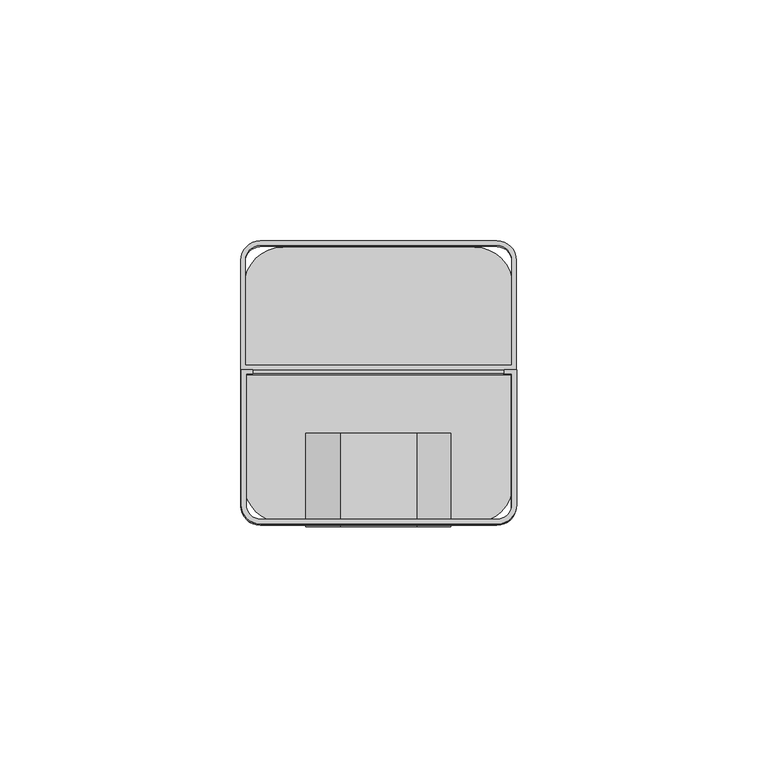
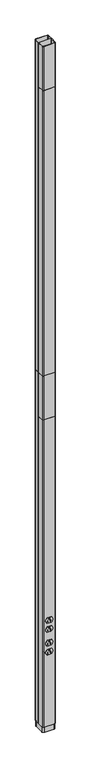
"""IFC4 building model written with IfcOpenShell, lengths in millimetres: proxy geometry, Vertical_Drop_Poles-Wiremold-Steel_Tele-Power_Pole_Extender : 25DTP-E10."""

from ifc_helpers import new_model, si_unit, point, frame, frame_2d, origin, origin_with_axes, place, context, project, spatial, polyline, circle_curve, trimmed, segment, composite_curve, outline, extrude, source, transform, mapped, element, save


def electrical_fixtures_249263cb(model_context):
    return source(origin(), model_context, "Body", "SweptSolid", [
        extrude(outline(composite_curve([segment(polyline([(28.6490723, 31.25), (28.6490723, 3.25)]), True, "CONTINUOUS"), segment(trimmed(circle_curve(frame_2d((24.6490723, 3.25)), 4.0), [point((28.6490723, 3.25))], [point((24.6490723, -0.75))], False, "CARTESIAN"), True, "CONTINUOUS"), segment(polyline([(24.6490723, -0.75), (-24.5009277, -0.75)]), True, "CONTINUOUS"), segment(trimmed(circle_curve(frame_2d((-24.5009277, 3.25)), 4.0), [point((-24.5009277, -0.75))], [point((-28.5009277, 3.25))], False, "CARTESIAN"), True, "CONTINUOUS"), segment(polyline([(-28.5009277, 3.25), (-28.5009277, 31.25), (28.6490723, 31.25)]), True, "CONTINUOUS")], self_intersect=False), holes=[composite_curve([segment(polyline([(-27.5009277, 30.45), (-27.5009277, 3.25)]), True, "CONTINUOUS"), segment(trimmed(circle_curve(frame_2d((-24.5009277, 3.25)), 3.0), [point((-27.5009277, 3.25))], [point((-24.5009277, 0.25))], True, "CARTESIAN"), True, "CONTINUOUS"), segment(polyline([(-24.5009277, 0.25), (24.6490723, 0.25)]), True, "CONTINUOUS"), segment(trimmed(circle_curve(frame_2d((24.6490723, 3.25)), 3.0), [point((24.6490723, 0.25))], [point((27.6490723, 3.25))], True, "CARTESIAN"), True, "CONTINUOUS"), segment(polyline([(27.6490723, 3.25), (27.6490723, 30.45), (-27.5009277, 30.45)]), True, "CONTINUOUS")], self_intersect=False)]), frame((0.0, 0.0, 1625.6), z_axis=(0.0, 0.0, 1.0), x_axis=(1.0, 0.0, 0.0)), (0.0, 0.0, 1.0), 1320.8),
        extrude(outline(composite_curve([segment(polyline([(28.6490723, 31.25), (28.6490723, 3.25)]), True, "CONTINUOUS"), segment(trimmed(circle_curve(frame_2d((24.6490723, 3.25)), 4.0), [point((28.6490723, 3.25))], [point((24.6490723, -0.75))], False, "CARTESIAN"), True, "CONTINUOUS"), segment(polyline([(24.6490723, -0.75), (-24.5009277, -0.75)]), True, "CONTINUOUS"), segment(trimmed(circle_curve(frame_2d((-24.5009277, 3.25)), 4.0), [point((-24.5009277, -0.75))], [point((-28.5009277, 3.25))], False, "CARTESIAN"), True, "CONTINUOUS"), segment(polyline([(-28.5009277, 3.25), (-28.5009277, 31.25), (-26.1134277, 31.25), (-26.1134277, 30.45), (-27.5009277, 30.45), (-27.5009277, 3.25)]), True, "CONTINUOUS"), segment(trimmed(circle_curve(frame_2d((-24.5009277, 3.25)), 3.0), [point((-27.5009277, 3.25))], [point((-24.5009277, 0.25))], True, "CARTESIAN"), True, "CONTINUOUS"), segment(polyline([(-24.5009277, 0.25), (24.6490723, 0.25)]), True, "CONTINUOUS"), segment(trimmed(circle_curve(frame_2d((24.6490723, 3.25)), 3.0), [point((24.6490723, 0.25))], [point((27.6490723, 3.25))], True, "CARTESIAN"), True, "CONTINUOUS"), segment(polyline([(27.6490723, 3.25), (27.6490723, 30.45), (26.0615723, 30.45), (26.0615723, 31.25), (28.6490723, 31.25)]), True, "CONTINUOUS")], self_intersect=False)), frame((0.0, 0.0, 2946.4), z_axis=(0.0, 0.0, 1.0), x_axis=(1.0, 0.0, 0.0)), (0.0, 0.0, 1.0), 203.2),
        extrude(outline(composite_curve([segment(trimmed(circle_curve(frame_2d((24.575, 53.9875)), 4.0), [point((24.575, 57.9875))], [point((28.575, 53.9875))], False, "CARTESIAN"), True, "CONTINUOUS"), segment(polyline([(28.575, 53.9875), (28.575, 31.25), (-28.575, 31.25), (-28.575, 53.9875)]), True, "CONTINUOUS"), segment(trimmed(circle_curve(frame_2d((-24.575, 53.9875)), 4.0), [point((-28.575, 53.9875))], [point((-24.575, 57.9875))], False, "CARTESIAN"), True, "CONTINUOUS"), segment(polyline([(-24.575, 57.9875), (24.575, 57.9875)]), True, "CONTINUOUS")], self_intersect=False), holes=[composite_curve([segment(polyline([(27.575, 32.25), (27.575, 53.9875)]), True, "CONTINUOUS"), segment(trimmed(circle_curve(frame_2d((24.575, 53.9875)), 3.0), [point((27.575, 53.9875))], [point((24.575, 56.9875))], True, "CARTESIAN"), True, "CONTINUOUS"), segment(polyline([(24.575, 56.9875), (-24.575, 56.9875)]), True, "CONTINUOUS"), segment(trimmed(circle_curve(frame_2d((-24.575, 53.9875)), 3.0), [point((-24.575, 56.9875))], [point((-27.575, 53.9875))], True, "CARTESIAN"), True, "CONTINUOUS"), segment(polyline([(-27.575, 53.9875), (-27.575, 32.25), (27.575, 32.25)]), True, "CONTINUOUS")], self_intersect=False)]), frame((0.0, 0.0, 1625.6), z_axis=(0.0, 0.0, 1.0), x_axis=(1.0, 0.0, 0.0)), (0.0, 0.0, 1.0), 1524.0),
        extrude(outline(composite_curve([segment(polyline([(28.575, 31.25), (28.575, 3.25)]), True, "CONTINUOUS"), segment(trimmed(circle_curve(frame_2d((24.575, 3.25)), 4.0), [point((28.575, 3.25))], [point((24.575, -0.75))], False, "CARTESIAN"), True, "CONTINUOUS"), segment(polyline([(24.575, -0.75), (-24.575, -0.75)]), True, "CONTINUOUS"), segment(trimmed(circle_curve(frame_2d((-24.575, 3.25)), 4.0), [point((-24.575, -0.75))], [point((-28.575, 3.25))], False, "CARTESIAN"), True, "CONTINUOUS"), segment(polyline([(-28.575, 3.25), (-28.575, 31.25), (-26.1875, 31.25), (-26.1875, 30.45), (-27.575, 30.45), (-27.575, 3.25)]), True, "CONTINUOUS"), segment(trimmed(circle_curve(frame_2d((-24.575, 3.25)), 3.0), [point((-27.575, 3.25))], [point((-24.575, 0.25))], True, "CARTESIAN"), True, "CONTINUOUS"), segment(polyline([(-24.575, 0.25), (24.575, 0.25)]), True, "CONTINUOUS"), segment(trimmed(circle_curve(frame_2d((24.575, 3.25)), 3.0), [point((24.575, 0.25))], [point((27.575, 3.25))], True, "CARTESIAN"), True, "CONTINUOUS"), segment(polyline([(27.575, 3.25), (27.575, 30.45), (25.9875, 30.45), (25.9875, 31.25), (28.575, 31.25)]), True, "CONTINUOUS")], self_intersect=False)), frame((0.0, 0.0, 1422.4), z_axis=(0.0, 0.0, 1.0), x_axis=(1.0, 0.0, 0.0)), (0.0, 0.0, 1.0), 203.2),
        extrude(outline(composite_curve([segment(trimmed(circle_curve(frame_2d((488.7029331, -1.1591271)), 13.933707), [point((500.85, -7.9853234))], [point((488.7029331, -15.092834))], False, "CARTESIAN"), True, "CONTINUOUS"), segment(polyline([(488.7029331, -15.092834), (486.7854081, -15.092834)]), True, "CONTINUOUS"), segment(trimmed(circle_curve(frame_2d((486.7854081, -0.9909304)), 14.1019036), [point((486.7854081, -15.092834))], [point((474.85, -8.5015708))], False, "CARTESIAN"), True, "CONTINUOUS"), segment(polyline([(474.85, -8.5015708), (474.85, 8.5041234)]), True, "CONTINUOUS"), segment(trimmed(circle_curve(frame_2d((486.6576313, 0.982166)), 14.0), [point((474.85, 8.5041234))], [point((486.6576313, 14.982166))], False, "CARTESIAN"), True, "CONTINUOUS"), segment(polyline([(486.6576313, 14.982166), (488.7451343, 14.982166)]), True, "CONTINUOUS"), segment(trimmed(circle_curve(frame_2d((488.7451343, 0.9958893)), 13.9862766), [point((488.7451343, 14.982166))], [point((500.85, 8.0021838))], False, "CARTESIAN"), True, "CONTINUOUS"), segment(polyline([(500.85, 8.0021838), (500.85, -7.9853234)]), True, "CONTINUOUS")], self_intersect=False), holes=[polyline([(486.9892021, -5.530934), (479.0517021, -5.530934), (479.0517021, -7.1202895), (486.9892021, -7.1202895), (486.9892021, -5.530934)]), polyline([(479.8454521, 5.29348), (486.1954521, 5.29348), (486.1954521, 6.8797105), (479.8454521, 6.8797105), (479.8454521, 5.29348)]), composite_curve([segment(polyline([(497.4329521, 2.240599), (494.2579521, 2.240599)]), True, "CONTINUOUS"), segment(trimmed(circle_curve(frame_2d((494.2579521, -0.140651)), 2.38125), [point((494.2579521, 2.240599))], [point((494.2579521, -2.521901))], True, "CARTESIAN"), True, "CONTINUOUS"), segment(polyline([(494.2579521, -2.521901), (497.4329521, -2.521901), (497.4329521, 2.240599)]), True, "CONTINUOUS")], self_intersect=False)]), frame((0.0, -0.8603814, 0.0), z_axis=(0.0, 1.0, 0.0), x_axis=(0.0, 0.0, 1.0)), (0.0, 0.0, 1.0), 19.3625),
        extrude(outline(composite_curve([segment(polyline([(459.05, 8.7098868), (459.05, -8.7111214)]), True, "CONTINUOUS"), segment(trimmed(circle_curve(frame_2d((447.3453879, -1.1683429)), 13.9244911), [point((459.05, -8.7111214))], [point((447.3453879, -15.092834))], False, "CARTESIAN"), True, "CONTINUOUS"), segment(polyline([(447.3453879, -15.092834), (445.4207127, -15.092834)]), True, "CONTINUOUS"), segment(trimmed(circle_curve(frame_2d((445.4207127, -0.9820385)), 14.1107955), [point((445.4207127, -15.092834))], [point((433.05, -7.7702649))], False, "CARTESIAN"), True, "CONTINUOUS"), segment(polyline([(433.05, -7.7702649), (433.05, 7.7817126)]), True, "CONTINUOUS"), segment(trimmed(circle_curve(frame_2d((445.293109, 0.9733088)), 14.0088572), [point((433.05, 7.7817126))], [point((445.293109, 14.982166))], False, "CARTESIAN"), True, "CONTINUOUS"), segment(polyline([(445.293109, 14.982166), (447.3875692, 14.982166)]), True, "CONTINUOUS"), segment(trimmed(circle_curve(frame_2d((447.3875692, 1.0036923)), 13.9784736), [point((447.3875692, 14.982166))], [point((459.05, 8.7098868))], False, "CARTESIAN"), True, "CONTINUOUS")], self_intersect=False), holes=[polyline([(445.5892021, -5.6947448), (437.6517021, -5.6947448), (437.6517021, -7.2841003), (445.5892021, -7.2841003), (445.5892021, -5.6947448)]), polyline([(438.4454521, 5.29348), (444.7954521, 5.29348), (444.7954521, 6.8797105), (438.4454521, 6.8797105), (438.4454521, 5.29348)]), composite_curve([segment(polyline([(456.0329521, 2.240599), (452.8579521, 2.240599)]), True, "CONTINUOUS"), segment(trimmed(circle_curve(frame_2d((452.8579521, -0.140651)), 2.38125), [point((452.8579521, 2.240599))], [point((452.8579521, -2.521901))], True, "CARTESIAN"), True, "CONTINUOUS"), segment(polyline([(452.8579521, -2.521901), (456.0329521, -2.521901), (456.0329521, 2.240599)]), True, "CONTINUOUS")], self_intersect=False)]), frame((0.0, -0.8603814, 0.0), z_axis=(0.0, 1.0, 0.0), x_axis=(0.0, 0.0, 1.0)), (0.0, 0.0, 1.0), 19.3625),
        extrude(outline(composite_curve([segment(trimmed(circle_curve(frame_2d((19.825, 49.2375)), 8.0), [point((19.825, 57.2375))], [point((27.825, 49.2375))], False, "CARTESIAN"), True, "CONTINUOUS"), segment(polyline([(27.825, 49.2375), (27.825, 8.0)]), True, "CONTINUOUS"), segment(trimmed(circle_curve(frame_2d((19.825, 8.0)), 8.0), [point((27.825, 8.0))], [point((19.825, 0.0))], False, "CARTESIAN"), True, "CONTINUOUS"), segment(polyline([(19.825, 0.0), (-19.825, 0.0)]), True, "CONTINUOUS"), segment(trimmed(circle_curve(frame_2d((-19.825, 8.0)), 8.0), [point((-19.825, 0.0))], [point((-27.825, 8.0))], False, "CARTESIAN"), True, "CONTINUOUS"), segment(polyline([(-27.825, 8.0), (-27.825, 49.2375)]), True, "CONTINUOUS"), segment(trimmed(circle_curve(frame_2d((-19.825, 49.2375)), 8.0), [point((-27.825, 49.2375))], [point((-19.825, 57.2375))], False, "CARTESIAN"), True, "CONTINUOUS"), segment(polyline([(-19.825, 57.2375), (19.825, 57.2375)]), True, "CONTINUOUS")], self_intersect=False)), frame((0.0, 0.0, -25.4), z_axis=(0.0, 0.0, 1.0), x_axis=(1.0, 0.0, 0.0)), (0.0, 0.0, 1.0), 25.4),
        extrude(outline(composite_curve([segment(trimmed(circle_curve(frame_2d((383.7576838, -0.8922297)), 13.9907186), [point((395.85, -7.9289972))], [point((383.7576838, -14.8829484))], False, "CARTESIAN"), True, "CONTINUOUS"), segment(polyline([(383.7576838, -14.8829484), (381.7241422, -14.8829484)]), True, "CONTINUOUS"), segment(trimmed(circle_curve(frame_2d((381.7241422, -0.7955272)), 14.0874212), [point((381.7241422, -14.8829484))], [point((369.85, -8.3757767))], False, "CARTESIAN"), True, "CONTINUOUS"), segment(polyline([(369.85, -8.3757767), (369.85, 8.3803147)]), True, "CONTINUOUS"), segment(trimmed(circle_curve(frame_2d((381.5972441, 0.7899761)), 13.9860997), [point((369.85, 8.3803147))], [point((381.5972441, 14.7760758))], False, "CARTESIAN"), True, "CONTINUOUS"), segment(polyline([(381.5972441, 14.7760758), (383.8021914, 14.7760758)]), True, "CONTINUOUS"), segment(trimmed(circle_curve(frame_2d((383.8021914, 0.7346672)), 14.0414086), [point((383.8021914, 14.7760758))], [point((395.85, 7.9465645))], False, "CARTESIAN"), True, "CONTINUOUS"), segment(polyline([(395.85, 7.9465645), (395.85, -7.9289972)]), True, "CONTINUOUS")], self_intersect=False), holes=[polyline([(382.0039761, -5.530934), (374.0664761, -5.530934), (374.0664761, -7.1202895), (382.0039761, -7.1202895), (382.0039761, -5.530934)]), polyline([(374.8602261, 5.29348), (381.2102261, 5.29348), (381.2102261, 6.8797105), (374.8602261, 6.8797105), (374.8602261, 5.29348)]), composite_curve([segment(polyline([(392.7247135, 2.240599), (389.2727261, 2.240599)]), True, "CONTINUOUS"), segment(trimmed(circle_curve(frame_2d((389.2727261, -0.140651)), 2.38125), [point((389.2727261, 2.240599))], [point((389.2727261, -2.521901))], True, "CARTESIAN"), True, "CONTINUOUS"), segment(polyline([(389.2727261, -2.521901), (392.7247135, -2.521901), (392.7247135, 2.240599)]), True, "CONTINUOUS")], self_intersect=False)]), frame((0.0, -0.8603814, 0.0), z_axis=(0.0, 1.0, 0.0), x_axis=(0.0, 0.0, 1.0)), (0.0, 0.0, 1.0), 19.3625),
        extrude(outline(composite_curve([segment(polyline([(354.05, 8.732199), (354.05, -8.7339979)]), True, "CONTINUOUS"), segment(trimmed(circle_curve(frame_2d((342.490781, -1.0863882)), 13.8600678), [point((354.05, -8.7339979))], [point((342.490781, -14.946456))], False, "CARTESIAN"), True, "CONTINUOUS"), segment(polyline([(342.490781, -14.946456), (340.4289854, -14.946456)]), True, "CONTINUOUS"), segment(trimmed(circle_curve(frame_2d((340.4289854, -0.6843086)), 14.2621474), [point((340.4289854, -14.946456))], [point((328.05, -7.7673565))], False, "CARTESIAN"), True, "CONTINUOUS"), segment(polyline([(328.05, -7.7673565), (328.05, 7.7787932)]), True, "CONTINUOUS"), segment(trimmed(circle_curve(frame_2d((340.3005157, 0.6795122)), 14.1589168), [point((328.05, 7.7787932))], [point((340.3005157, 14.838429))], False, "CARTESIAN"), True, "CONTINUOUS"), segment(polyline([(340.3005157, 14.838429), (342.5323407, 14.838429)]), True, "CONTINUOUS"), segment(trimmed(circle_curve(frame_2d((342.5323407, 0.9229263)), 13.9155027), [point((342.5323407, 14.838429))], [point((354.05, 8.732199))], False, "CARTESIAN"), True, "CONTINUOUS")], self_intersect=False), holes=[polyline([(340.6039761, -5.6947448), (332.6664761, -5.6947448), (332.6664761, -7.2841003), (340.6039761, -7.2841003), (340.6039761, -5.6947448)]), polyline([(333.4602261, 5.29348), (339.8102261, 5.29348), (339.8102261, 6.8797105), (333.4602261, 6.8797105), (333.4602261, 5.29348)]), composite_curve([segment(polyline([(350.7707386, 2.240599), (347.8727261, 2.240599)]), True, "CONTINUOUS"), segment(trimmed(circle_curve(frame_2d((347.8727261, -0.140651)), 2.38125), [point((347.8727261, 2.240599))], [point((347.8727261, -2.521901))], True, "CARTESIAN"), True, "CONTINUOUS"), segment(polyline([(347.8727261, -2.521901), (350.7707386, -2.521901), (350.7707386, 2.240599)]), True, "CONTINUOUS")], self_intersect=False)]), frame((0.0, -0.8603814, 0.0), z_axis=(0.0, 1.0, 0.0), x_axis=(0.0, 0.0, 1.0)), (0.0, 0.0, 1.0), 19.3625),
        extrude(outline(composite_curve([segment(trimmed(circle_curve(frame_2d((24.575, 53.9875)), 4.0), [point((24.575, 57.9875))], [point((28.575, 53.9875))], False, "CARTESIAN"), True, "CONTINUOUS"), segment(polyline([(28.575, 53.9875), (28.575, 31.25), (-28.575, 31.25), (-28.575, 53.9875)]), True, "CONTINUOUS"), segment(trimmed(circle_curve(frame_2d((-24.575, 53.9875)), 4.0), [point((-28.575, 53.9875))], [point((-24.575, 57.9875))], False, "CARTESIAN"), True, "CONTINUOUS"), segment(polyline([(-24.575, 57.9875), (24.575, 57.9875)]), True, "CONTINUOUS")], self_intersect=False), holes=[composite_curve([segment(polyline([(27.575, 32.25), (27.575, 53.9875)]), True, "CONTINUOUS"), segment(trimmed(circle_curve(frame_2d((24.575, 53.9875)), 3.0), [point((27.575, 53.9875))], [point((24.575, 56.9875))], True, "CARTESIAN"), True, "CONTINUOUS"), segment(polyline([(24.575, 56.9875), (-24.575, 56.9875)]), True, "CONTINUOUS"), segment(trimmed(circle_curve(frame_2d((-24.575, 53.9875)), 3.0), [point((-24.575, 56.9875))], [point((-27.575, 53.9875))], True, "CARTESIAN"), True, "CONTINUOUS"), segment(polyline([(-27.575, 53.9875), (-27.575, 32.25), (27.575, 32.25)]), True, "CONTINUOUS")], self_intersect=False)]), origin_with_axes(), (0.0, 0.0, 1.0), 1625.6),
        extrude(outline(composite_curve([segment(polyline([(28.575, 31.25), (28.575, 3.25)]), True, "CONTINUOUS"), segment(trimmed(circle_curve(frame_2d((24.575, 3.25)), 4.0), [point((28.575, 3.25))], [point((24.575, -0.75))], False, "CARTESIAN"), True, "CONTINUOUS"), segment(polyline([(24.575, -0.75), (-24.575, -0.75)]), True, "CONTINUOUS"), segment(trimmed(circle_curve(frame_2d((-24.575, 3.25)), 4.0), [point((-24.575, -0.75))], [point((-28.575, 3.25))], False, "CARTESIAN"), True, "CONTINUOUS"), segment(polyline([(-28.575, 3.25), (-28.575, 31.25), (28.575, 31.25)]), True, "CONTINUOUS")], self_intersect=False), holes=[composite_curve([segment(polyline([(-27.575, 30.45), (-27.575, 3.25)]), True, "CONTINUOUS"), segment(trimmed(circle_curve(frame_2d((-24.575, 3.25)), 3.0), [point((-27.575, 3.25))], [point((-24.575, 0.25))], True, "CARTESIAN"), True, "CONTINUOUS"), segment(polyline([(-24.575, 0.25), (24.575, 0.25)]), True, "CONTINUOUS"), segment(trimmed(circle_curve(frame_2d((24.575, 3.25)), 3.0), [point((24.575, 0.25))], [point((27.575, 3.25))], True, "CARTESIAN"), True, "CONTINUOUS"), segment(polyline([(27.575, 3.25), (27.575, 30.45), (-27.575, 30.45)]), True, "CONTINUOUS")], self_intersect=False)]), origin_with_axes(), (0.0, 0.0, 1.0), 1422.4),
    ])


if __name__ == "__main__":
    model = new_model("IFC4")
    model_context = context("Model", 3, world=origin())
    ifc_project = project(units=[si_unit("LENGTHUNIT", "METRE", prefix="MILLI")], contexts=[model_context])
    site = spatial("IfcSite", under=ifc_project)
    building = spatial("IfcBuilding", under=site)
    placement = place(None, origin())
    electrical_fixtures_shape = electrical_fixtures_249263cb(model_context)
    element("IfcBuildingElementProxy", 1, Name="Vertical_Drop_Poles-Wiremold-Steel_Tele-Power_Pole_Extender : 25DTP-E10", ObjectType="Vertical_Drop_Poles-Wiremold-Steel_Tele-Power_Pole_Extender : 25DTP-E10", at=placement, inside=building, context=model_context, shape_type="MappedRepresentation", body=[
        mapped(electrical_fixtures_shape, transform((0.0, 0.0, 0.0), x_axis=(1.0, 0.0, 0.0), y_axis=(0.0, 1.0, 0.0), z_axis=(0.0, 0.0, 1.0))),
    ])
    save(model, "model.ifc")
